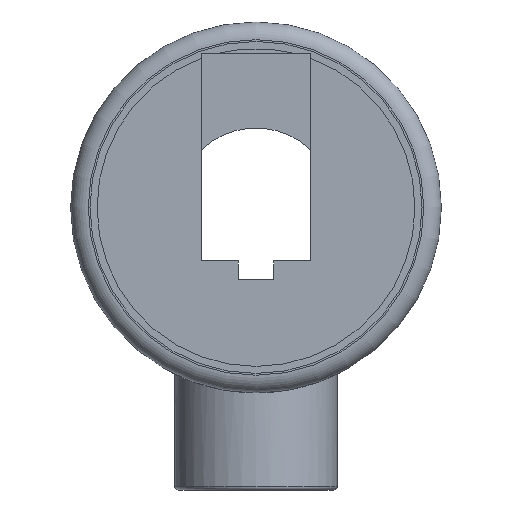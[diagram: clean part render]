
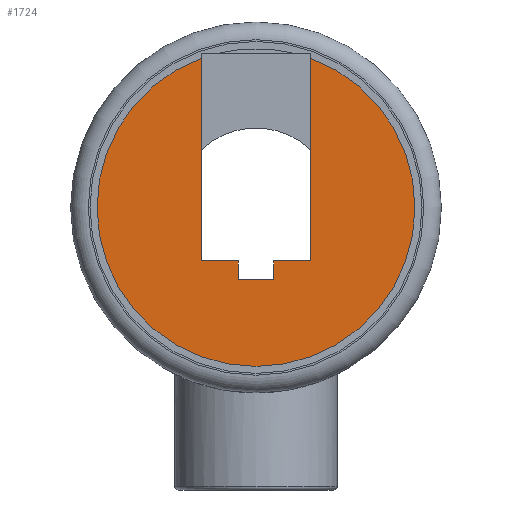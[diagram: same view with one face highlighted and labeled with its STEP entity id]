
A CAD part, left-side view. The second image highlights one B-rep face of the part: STEP entity #1724.
In plain terms, the highlighted planar face has unit normal (-1, 0, 0).
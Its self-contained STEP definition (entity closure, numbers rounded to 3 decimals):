
#474 = PLANE('',#475);
#475 = AXIS2_PLACEMENT_3D('',#476,#477,#478);
#476 = CARTESIAN_POINT('',(-20.,6.2,174.95));
#477 = DIRECTION('',(-0.,1.,0.));
#478 = DIRECTION('',(0.,0.,1.));
#502 = CYLINDRICAL_SURFACE('',#503,18.);
#503 = AXIS2_PLACEMENT_3D('',#504,#505,#506);
#504 = CARTESIAN_POINT('',(-19.9,0.,181.));
#505 = DIRECTION('',(1.,0.,0.));
#506 = DIRECTION('',(-0.,0.,1.));
#527 = PLANE('',#528);
#528 = AXIS2_PLACEMENT_3D('',#529,#530,#531);
#529 = CARTESIAN_POINT('',(-20.,-6.2,174.95));
#530 = DIRECTION('',(-0.,1.,0.));
#531 = DIRECTION('',(0.,0.,1.));
#1213 = VERTEX_POINT('',#1214);
#1214 = CARTESIAN_POINT('',(-18.,6.2,174.95));
#1230 = PLANE('',#1231);
#1231 = AXIS2_PLACEMENT_3D('',#1232,#1233,#1234);
#1232 = CARTESIAN_POINT('',(-20.,-6.2,174.95));
#1233 = DIRECTION('',(0.,0.,1.));
#1234 = DIRECTION('',(1.,0.,-0.));
#1242 = EDGE_CURVE('',#1213,#1243,#1245,.T.);
#1243 = VERTEX_POINT('',#1244);
#1244 = CARTESIAN_POINT('',(-18.,6.2,197.899));
#1245 = SURFACE_CURVE('',#1246,(#1250,#1256),.PCURVE_S1.);
#1246 = LINE('',#1247,#1248);
#1247 = CARTESIAN_POINT('',(-18.,6.2,177.975));
#1248 = VECTOR('',#1249,1.);
#1249 = DIRECTION('',(0.,-0.,1.));
#1250 = PCURVE('',#474,#1251);
#1251 = DEFINITIONAL_REPRESENTATION('',(#1252),#1255);
#1252 = B_SPLINE_CURVE_WITH_KNOTS('',1,(#1253,#1254),.UNSPECIFIED.,.F.,
  .F.,(2,2),(-3.025,20.475),.PIECEWISE_BEZIER_KNOTS.);
#1253 = CARTESIAN_POINT('',(0.,2.));
#1254 = CARTESIAN_POINT('',(23.5,2.));
#1255 = ( GEOMETRIC_REPRESENTATION_CONTEXT(2) 
PARAMETRIC_REPRESENTATION_CONTEXT() REPRESENTATION_CONTEXT('2D SPACE',''
  ) );
#1256 = PCURVE('',#1257,#1262);
#1257 = PLANE('',#1258);
#1258 = AXIS2_PLACEMENT_3D('',#1259,#1260,#1261);
#1259 = CARTESIAN_POINT('',(-18.,0.,181.));
#1260 = DIRECTION('',(1.,0.,0.));
#1261 = DIRECTION('',(-0.,0.,1.));
#1262 = DEFINITIONAL_REPRESENTATION('',(#1263),#1266);
#1263 = B_SPLINE_CURVE_WITH_KNOTS('',1,(#1264,#1265),.UNSPECIFIED.,.F.,
  .F.,(2,2),(-3.025,20.475),.PIECEWISE_BEZIER_KNOTS.);
#1264 = CARTESIAN_POINT('',(-6.05,-6.2));
#1265 = CARTESIAN_POINT('',(17.45,-6.2));
#1266 = ( GEOMETRIC_REPRESENTATION_CONTEXT(2) 
PARAMETRIC_REPRESENTATION_CONTEXT() REPRESENTATION_CONTEXT('2D SPACE',''
  ) );
#1311 = EDGE_CURVE('',#1312,#1243,#1314,.T.);
#1312 = VERTEX_POINT('',#1313);
#1313 = CARTESIAN_POINT('',(-18.,-6.2,197.899));
#1314 = SURFACE_CURVE('',#1315,(#1320,#1327),.PCURVE_S1.);
#1315 = CIRCLE('',#1316,18.);
#1316 = AXIS2_PLACEMENT_3D('',#1317,#1318,#1319);
#1317 = CARTESIAN_POINT('',(-18.,0.,181.));
#1318 = DIRECTION('',(1.,0.,0.));
#1319 = DIRECTION('',(-0.,0.,1.));
#1320 = PCURVE('',#502,#1321);
#1321 = DEFINITIONAL_REPRESENTATION('',(#1322),#1326);
#1322 = LINE('',#1323,#1324);
#1323 = CARTESIAN_POINT('',(0.,1.9));
#1324 = VECTOR('',#1325,1.);
#1325 = DIRECTION('',(1.,0.));
#1326 = ( GEOMETRIC_REPRESENTATION_CONTEXT(2) 
PARAMETRIC_REPRESENTATION_CONTEXT() REPRESENTATION_CONTEXT('2D SPACE',''
  ) );
#1327 = PCURVE('',#1257,#1328);
#1328 = DEFINITIONAL_REPRESENTATION('',(#1329),#1333);
#1329 = CIRCLE('',#1330,18.);
#1330 = AXIS2_PLACEMENT_2D('',#1331,#1332);
#1331 = CARTESIAN_POINT('',(0.,0.));
#1332 = DIRECTION('',(1.,0.));
#1333 = ( GEOMETRIC_REPRESENTATION_CONTEXT(2) 
PARAMETRIC_REPRESENTATION_CONTEXT() REPRESENTATION_CONTEXT('2D SPACE',''
  ) );
#1360 = VERTEX_POINT('',#1361);
#1361 = CARTESIAN_POINT('',(-18.,-6.2,174.95));
#1377 = PLANE('',#1378);
#1378 = AXIS2_PLACEMENT_3D('',#1379,#1380,#1381);
#1379 = CARTESIAN_POINT('',(-20.,-6.2,174.95));
#1380 = DIRECTION('',(0.,0.,1.));
#1381 = DIRECTION('',(1.,0.,-0.));
#1389 = EDGE_CURVE('',#1360,#1312,#1390,.T.);
#1390 = SURFACE_CURVE('',#1391,(#1395,#1401),.PCURVE_S1.);
#1391 = LINE('',#1392,#1393);
#1392 = CARTESIAN_POINT('',(-18.,-6.2,177.975));
#1393 = VECTOR('',#1394,1.);
#1394 = DIRECTION('',(0.,-0.,1.));
#1395 = PCURVE('',#527,#1396);
#1396 = DEFINITIONAL_REPRESENTATION('',(#1397),#1400);
#1397 = B_SPLINE_CURVE_WITH_KNOTS('',1,(#1398,#1399),.UNSPECIFIED.,.F.,
  .F.,(2,2),(-3.025,20.475),.PIECEWISE_BEZIER_KNOTS.);
#1398 = CARTESIAN_POINT('',(0.,2.));
#1399 = CARTESIAN_POINT('',(23.5,2.));
#1400 = ( GEOMETRIC_REPRESENTATION_CONTEXT(2) 
PARAMETRIC_REPRESENTATION_CONTEXT() REPRESENTATION_CONTEXT('2D SPACE',''
  ) );
#1401 = PCURVE('',#1257,#1402);
#1402 = DEFINITIONAL_REPRESENTATION('',(#1403),#1406);
#1403 = B_SPLINE_CURVE_WITH_KNOTS('',1,(#1404,#1405),.UNSPECIFIED.,.F.,
  .F.,(2,2),(-3.025,20.475),.PIECEWISE_BEZIER_KNOTS.);
#1404 = CARTESIAN_POINT('',(-6.05,6.2));
#1405 = CARTESIAN_POINT('',(17.45,6.2));
#1406 = ( GEOMETRIC_REPRESENTATION_CONTEXT(2) 
PARAMETRIC_REPRESENTATION_CONTEXT() REPRESENTATION_CONTEXT('2D SPACE',''
  ) );
#1591 = PLANE('',#1592);
#1592 = AXIS2_PLACEMENT_3D('',#1593,#1594,#1595);
#1593 = CARTESIAN_POINT('',(-20.,2.,172.8));
#1594 = DIRECTION('',(-0.,1.,0.));
#1595 = DIRECTION('',(0.,0.,1.));
#1617 = PLANE('',#1618);
#1618 = AXIS2_PLACEMENT_3D('',#1619,#1620,#1621);
#1619 = CARTESIAN_POINT('',(-20.,-2.,172.8));
#1620 = DIRECTION('',(0.,0.,1.));
#1621 = DIRECTION('',(1.,0.,-0.));
#1643 = PLANE('',#1644);
#1644 = AXIS2_PLACEMENT_3D('',#1645,#1646,#1647);
#1645 = CARTESIAN_POINT('',(-20.,-2.,172.8));
#1646 = DIRECTION('',(-0.,1.,0.));
#1647 = DIRECTION('',(0.,0.,1.));
#1684 = EDGE_CURVE('',#1213,#1685,#1687,.T.);
#1685 = VERTEX_POINT('',#1686);
#1686 = CARTESIAN_POINT('',(-18.,2.,174.95));
#1687 = SURFACE_CURVE('',#1688,(#1692,#1698),.PCURVE_S1.);
#1688 = LINE('',#1689,#1690);
#1689 = CARTESIAN_POINT('',(-18.,-3.1,174.95));
#1690 = VECTOR('',#1691,1.);
#1691 = DIRECTION('',(0.,-1.,0.));
#1692 = PCURVE('',#1230,#1693);
#1693 = DEFINITIONAL_REPRESENTATION('',(#1694),#1697);
#1694 = B_SPLINE_CURVE_WITH_KNOTS('',1,(#1695,#1696),.UNSPECIFIED.,.F.,
  .F.,(2,2),(-9.3,3.1),.PIECEWISE_BEZIER_KNOTS.);
#1695 = CARTESIAN_POINT('',(2.,12.4));
#1696 = CARTESIAN_POINT('',(2.,0.));
#1697 = ( GEOMETRIC_REPRESENTATION_CONTEXT(2) 
PARAMETRIC_REPRESENTATION_CONTEXT() REPRESENTATION_CONTEXT('2D SPACE',''
  ) );
#1698 = PCURVE('',#1257,#1699);
#1699 = DEFINITIONAL_REPRESENTATION('',(#1700),#1703);
#1700 = B_SPLINE_CURVE_WITH_KNOTS('',1,(#1701,#1702),.UNSPECIFIED.,.F.,
  .F.,(2,2),(-9.3,3.1),.PIECEWISE_BEZIER_KNOTS.);
#1701 = CARTESIAN_POINT('',(-6.05,-6.2));
#1702 = CARTESIAN_POINT('',(-6.05,6.2));
#1703 = ( GEOMETRIC_REPRESENTATION_CONTEXT(2) 
PARAMETRIC_REPRESENTATION_CONTEXT() REPRESENTATION_CONTEXT('2D SPACE',''
  ) );
#1724 = ADVANCED_FACE('',(#1725),#1257,.F.);
#1725 = FACE_BOUND('',#1726,.F.);
#1726 = EDGE_LOOP('',(#1727,#1748,#1749,#1750,#1751,#1752,#1773,#1794));
#1727 = ORIENTED_EDGE('',*,*,#1728,.T.);
#1728 = EDGE_CURVE('',#1729,#1360,#1731,.T.);
#1729 = VERTEX_POINT('',#1730);
#1730 = CARTESIAN_POINT('',(-18.,-2.,174.95));
#1731 = SURFACE_CURVE('',#1732,(#1736,#1742),.PCURVE_S1.);
#1732 = LINE('',#1733,#1734);
#1733 = CARTESIAN_POINT('',(-18.,-3.1,174.95));
#1734 = VECTOR('',#1735,1.);
#1735 = DIRECTION('',(0.,-1.,0.));
#1736 = PCURVE('',#1257,#1737);
#1737 = DEFINITIONAL_REPRESENTATION('',(#1738),#1741);
#1738 = B_SPLINE_CURVE_WITH_KNOTS('',1,(#1739,#1740),.UNSPECIFIED.,.F.,
  .F.,(2,2),(-9.3,3.1),.PIECEWISE_BEZIER_KNOTS.);
#1739 = CARTESIAN_POINT('',(-6.05,-6.2));
#1740 = CARTESIAN_POINT('',(-6.05,6.2));
#1741 = ( GEOMETRIC_REPRESENTATION_CONTEXT(2) 
PARAMETRIC_REPRESENTATION_CONTEXT() REPRESENTATION_CONTEXT('2D SPACE',''
  ) );
#1742 = PCURVE('',#1377,#1743);
#1743 = DEFINITIONAL_REPRESENTATION('',(#1744),#1747);
#1744 = B_SPLINE_CURVE_WITH_KNOTS('',1,(#1745,#1746),.UNSPECIFIED.,.F.,
  .F.,(2,2),(-9.3,3.1),.PIECEWISE_BEZIER_KNOTS.);
#1745 = CARTESIAN_POINT('',(2.,12.4));
#1746 = CARTESIAN_POINT('',(2.,0.));
#1747 = ( GEOMETRIC_REPRESENTATION_CONTEXT(2) 
PARAMETRIC_REPRESENTATION_CONTEXT() REPRESENTATION_CONTEXT('2D SPACE',''
  ) );
#1748 = ORIENTED_EDGE('',*,*,#1389,.T.);
#1749 = ORIENTED_EDGE('',*,*,#1311,.T.);
#1750 = ORIENTED_EDGE('',*,*,#1242,.F.);
#1751 = ORIENTED_EDGE('',*,*,#1684,.T.);
#1752 = ORIENTED_EDGE('',*,*,#1753,.F.);
#1753 = EDGE_CURVE('',#1754,#1685,#1756,.T.);
#1754 = VERTEX_POINT('',#1755);
#1755 = CARTESIAN_POINT('',(-18.,2.,172.8));
#1756 = SURFACE_CURVE('',#1757,(#1761,#1767),.PCURVE_S1.);
#1757 = LINE('',#1758,#1759);
#1758 = CARTESIAN_POINT('',(-18.,2.,176.9));
#1759 = VECTOR('',#1760,1.);
#1760 = DIRECTION('',(0.,-0.,1.));
#1761 = PCURVE('',#1257,#1762);
#1762 = DEFINITIONAL_REPRESENTATION('',(#1763),#1766);
#1763 = B_SPLINE_CURVE_WITH_KNOTS('',1,(#1764,#1765),.UNSPECIFIED.,.F.,
  .F.,(2,2),(-4.1,-1.8),.PIECEWISE_BEZIER_KNOTS.);
#1764 = CARTESIAN_POINT('',(-8.2,-2.));
#1765 = CARTESIAN_POINT('',(-5.9,-2.));
#1766 = ( GEOMETRIC_REPRESENTATION_CONTEXT(2) 
PARAMETRIC_REPRESENTATION_CONTEXT() REPRESENTATION_CONTEXT('2D SPACE',''
  ) );
#1767 = PCURVE('',#1591,#1768);
#1768 = DEFINITIONAL_REPRESENTATION('',(#1769),#1772);
#1769 = B_SPLINE_CURVE_WITH_KNOTS('',1,(#1770,#1771),.UNSPECIFIED.,.F.,
  .F.,(2,2),(-4.1,-1.8),.PIECEWISE_BEZIER_KNOTS.);
#1770 = CARTESIAN_POINT('',(0.,2.));
#1771 = CARTESIAN_POINT('',(2.3,2.));
#1772 = ( GEOMETRIC_REPRESENTATION_CONTEXT(2) 
PARAMETRIC_REPRESENTATION_CONTEXT() REPRESENTATION_CONTEXT('2D SPACE',''
  ) );
#1773 = ORIENTED_EDGE('',*,*,#1774,.T.);
#1774 = EDGE_CURVE('',#1754,#1775,#1777,.T.);
#1775 = VERTEX_POINT('',#1776);
#1776 = CARTESIAN_POINT('',(-18.,-2.,172.8));
#1777 = SURFACE_CURVE('',#1778,(#1782,#1788),.PCURVE_S1.);
#1778 = LINE('',#1779,#1780);
#1779 = CARTESIAN_POINT('',(-18.,-1.,172.8));
#1780 = VECTOR('',#1781,1.);
#1781 = DIRECTION('',(0.,-1.,0.));
#1782 = PCURVE('',#1257,#1783);
#1783 = DEFINITIONAL_REPRESENTATION('',(#1784),#1787);
#1784 = B_SPLINE_CURVE_WITH_KNOTS('',1,(#1785,#1786),.UNSPECIFIED.,.F.,
  .F.,(2,2),(-3.,1.),.PIECEWISE_BEZIER_KNOTS.);
#1785 = CARTESIAN_POINT('',(-8.2,-2.));
#1786 = CARTESIAN_POINT('',(-8.2,2.));
#1787 = ( GEOMETRIC_REPRESENTATION_CONTEXT(2) 
PARAMETRIC_REPRESENTATION_CONTEXT() REPRESENTATION_CONTEXT('2D SPACE',''
  ) );
#1788 = PCURVE('',#1617,#1789);
#1789 = DEFINITIONAL_REPRESENTATION('',(#1790),#1793);
#1790 = B_SPLINE_CURVE_WITH_KNOTS('',1,(#1791,#1792),.UNSPECIFIED.,.F.,
  .F.,(2,2),(-3.,1.),.PIECEWISE_BEZIER_KNOTS.);
#1791 = CARTESIAN_POINT('',(2.,4.));
#1792 = CARTESIAN_POINT('',(2.,0.));
#1793 = ( GEOMETRIC_REPRESENTATION_CONTEXT(2) 
PARAMETRIC_REPRESENTATION_CONTEXT() REPRESENTATION_CONTEXT('2D SPACE',''
  ) );
#1794 = ORIENTED_EDGE('',*,*,#1795,.T.);
#1795 = EDGE_CURVE('',#1775,#1729,#1796,.T.);
#1796 = SURFACE_CURVE('',#1797,(#1801,#1807),.PCURVE_S1.);
#1797 = LINE('',#1798,#1799);
#1798 = CARTESIAN_POINT('',(-18.,-2.,176.9));
#1799 = VECTOR('',#1800,1.);
#1800 = DIRECTION('',(0.,-0.,1.));
#1801 = PCURVE('',#1257,#1802);
#1802 = DEFINITIONAL_REPRESENTATION('',(#1803),#1806);
#1803 = B_SPLINE_CURVE_WITH_KNOTS('',1,(#1804,#1805),.UNSPECIFIED.,.F.,
  .F.,(2,2),(-4.1,-1.8),.PIECEWISE_BEZIER_KNOTS.);
#1804 = CARTESIAN_POINT('',(-8.2,2.));
#1805 = CARTESIAN_POINT('',(-5.9,2.));
#1806 = ( GEOMETRIC_REPRESENTATION_CONTEXT(2) 
PARAMETRIC_REPRESENTATION_CONTEXT() REPRESENTATION_CONTEXT('2D SPACE',''
  ) );
#1807 = PCURVE('',#1643,#1808);
#1808 = DEFINITIONAL_REPRESENTATION('',(#1809),#1812);
#1809 = B_SPLINE_CURVE_WITH_KNOTS('',1,(#1810,#1811),.UNSPECIFIED.,.F.,
  .F.,(2,2),(-4.1,-1.8),.PIECEWISE_BEZIER_KNOTS.);
#1810 = CARTESIAN_POINT('',(0.,2.));
#1811 = CARTESIAN_POINT('',(2.3,2.));
#1812 = ( GEOMETRIC_REPRESENTATION_CONTEXT(2) 
PARAMETRIC_REPRESENTATION_CONTEXT() REPRESENTATION_CONTEXT('2D SPACE',''
  ) );
